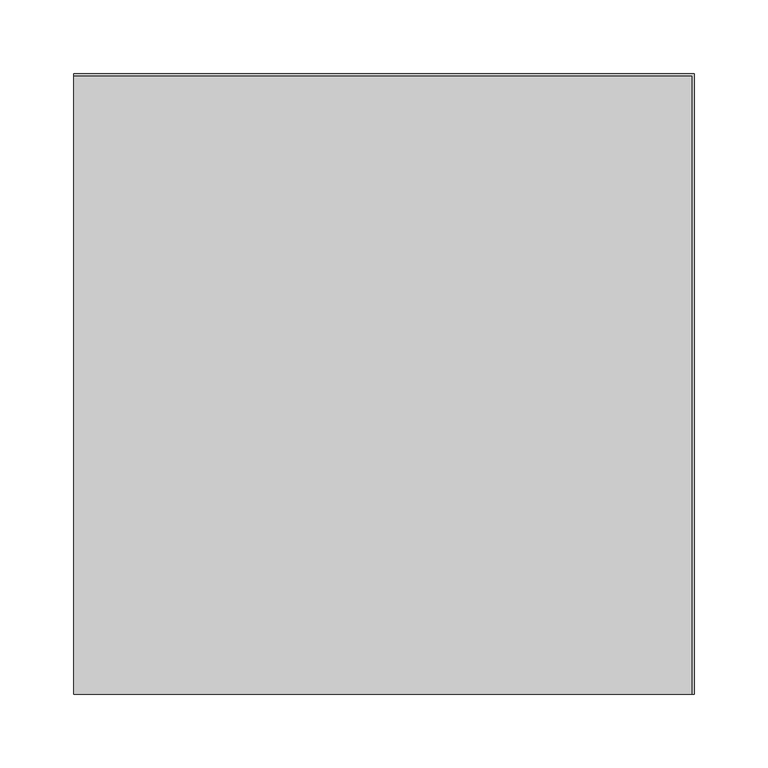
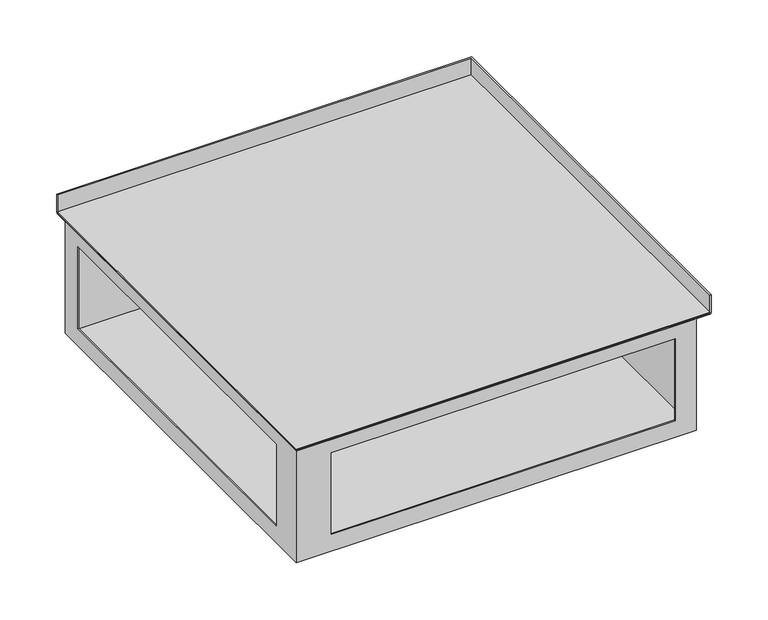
"""IFC4 building model written with IfcOpenShell, lengths in millimetres: proxy geometry, TECHNO_Угловой элемент_KVU : 420_140_90°."""

from ifc_helpers import new_model, si_unit, frame, origin, place, context, project, spatial, polyline, circle_curve, ellipse_curve, outline, extrude, source, transform, mapped, element, save
from ifc_brep_helpers import plane_surface, cylinder_surface, advanced_brep


def mechanical_equipment_2ab1f291(model_context):
    return source(origin(), model_context, "Body", "SolidModel", [
        extrude(outline(polyline([(0.0, 208.8), (418.8, 208.8), (418.8, -210.0), (0.0, -210.0), (0.0, 208.8)])), frame((0.0, 0.0, -19.3), z_axis=(0.0, 0.0, 1.0), x_axis=(1.0, 0.0, 0.0)), (0.0, 0.0, 1.0), 1.2),
        advanced_brep(
        [(1.2, 194.0, -138.8), (1.2, -208.8, -138.8), (404.0, -208.8, -138.8), (404.0, 194.0, -138.8), (0.0, 195.2, -140.0), (405.2, 195.2, -140.0), (405.2, -210.0, -140.0), (0.0, -210.0, -140.0), (0.0, 195.2, -20.5), (0.0, -210.0, -20.5), (0.0, 194.0, -20.5), (0.0, 195.2, -19.3), (0.0, 208.8, -19.3), (0.0, 208.8, 0.0), (0.0, 210.0, 0.0), (0.0, 210.0, -19.3), (0.0, 208.8, -20.5), (0.0, -174.5, -34.3), (0.0, -174.5, -122.0), (0.0, 173.9, -122.0), (0.0, 173.9, -34.3), (405.2, -210.0, -20.5), (418.8, -210.0, -20.5), (420.0, -210.0, -19.3), (420.0, -210.0, 0.0), (418.8, -210.0, 0.0), (418.8, -210.0, -19.3), (405.2, -210.0, -19.3), (404.0, -210.0, -20.5), (35.5, -210.0, -122.0), (35.5, -210.0, -34.3), (383.9, -210.0, -34.3), (383.9, -210.0, -122.0), (405.2, 195.2, -20.5), (1.2, 195.2, -19.3), (1.2, -208.8, -19.3), (405.2, -208.8, -19.3), (418.8, 208.8, -19.3), (405.2, -194.0, -19.3), (16.0, -194.0, -19.3), (16.0, 195.2, -19.3), (405.2, 195.2, -19.3), (16.0, -194.0, -20.5), (16.0, 194.0, -20.5), (404.0, -194.0, -20.5), (404.0, -208.8, -20.5), (1.2, -208.8, -20.5), (1.2, 194.0, -20.5), (1.2, -174.5, -122.0), (1.2, -174.5, -34.3), (1.2, 173.9, -34.3), (1.2, 173.9, -122.0), (35.5, -208.8, -34.3), (35.5, -208.8, -122.0), (383.9, -208.8, -122.0), (383.9, -208.8, -34.3), (420.0, 210.0, -19.3), (420.0, 210.0, 0.0), (418.8, 208.8, 0.0), (418.8, 208.8, -20.5), (404.0, 194.0, -20.5)],
        [
            (0, 1),
            (1, 2),
            (2, 3),
            (3, 0),
            (4, 5),
            (5, 6),
            (6, 7),
            (7, 4),
            (8, 4),
            (7, 9),
            (9, 10),
            (10, 11, circle_curve(frame((0.0, 195.2, -20.5), z_axis=(-1.0, 0.0, 0.0), x_axis=(0.0, -1.0, 0.0)), 1.2)),
            (11, 12),
            (12, 13),
            (13, 14),
            (14, 15),
            (15, 16, circle_curve(frame((0.0, 208.8, -19.3), z_axis=(-1.0, 0.0, 0.0), x_axis=(0.0, -1.0, 0.0)), 1.2)),
            (16, 8),
            (17, 18),
            (18, 19),
            (19, 20),
            (20, 17),
            (6, 21),
            (21, 22),
            (22, 23, circle_curve(frame((418.8, -210.0, -19.3), z_axis=(0.0, -1.0, 0.0), x_axis=(-1.0, 0.0, 0.0)), 1.2)),
            (23, 24),
            (24, 25),
            (25, 26),
            (26, 27),
            (27, 28, circle_curve(frame((405.2, -210.0, -20.5), z_axis=(0.0, -1.0, 0.0), x_axis=(-1.0, 0.0, 0.0)), 1.2)),
            (28, 9),
            (29, 30),
            (30, 31),
            (31, 32),
            (32, 29),
            (8, 33),
            (33, 5),
            (33, 21),
            (34, 35),
            (35, 36),
            (36, 27),
            (26, 37),
            (37, 12),
            (11, 34),
            (38, 39),
            (39, 40),
            (40, 41),
            (41, 38),
            (39, 42),
            (42, 43),
            (43, 40, circle_curve(frame((16.0, 195.2, -20.5), z_axis=(-1.0, 0.0, 0.0), x_axis=(0.0, -1.0, 0.0)), 1.2)),
            (38, 44, circle_curve(frame((405.2, -194.0, -20.5), z_axis=(0.0, -1.0, 0.0), x_axis=(-1.0, 0.0, 0.0)), 1.2)),
            (44, 42),
            (44, 45),
            (45, 46),
            (46, 47),
            (47, 43),
            (46, 1),
            (0, 47),
            (48, 49),
            (49, 50),
            (50, 51),
            (51, 48),
            (45, 2),
            (52, 53),
            (53, 54),
            (54, 55),
            (55, 52),
            (34, 10, ellipse_curve(frame((1.2, 195.2, -20.5), z_axis=(0.7071067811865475, -0.7071067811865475, 0.0), x_axis=(0.7071067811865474, 0.7071067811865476, 0.0)), 1.6970563, 1.2)),
            (9, 35, ellipse_curve(frame((1.2, -208.8, -20.5), z_axis=(-0.7071067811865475, 0.7071067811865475, 0.0), x_axis=(0.7071067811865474, 0.7071067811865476, 0.0)), 1.6970563, 1.2)),
            (28, 36, ellipse_curve(frame((405.2, -208.8, -20.5), z_axis=(-0.7071067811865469, 0.7071067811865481, 0.0), x_axis=(-0.7071067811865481, -0.7071067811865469, 0.0)), 1.6970563, 1.2)),
            (23, 56),
            (56, 57),
            (57, 24),
            (57, 14),
            (13, 58),
            (58, 25),
            (58, 37),
            (16, 59),
            (59, 22),
            (59, 56, ellipse_curve(frame((418.8, 208.8, -19.3), z_axis=(0.7071067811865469, -0.7071067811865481, 0.0), x_axis=(-0.7071067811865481, -0.7071067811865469, 0.0)), 1.6970563, 1.2)),
            (56, 15),
            (41, 60, ellipse_curve(frame((405.2, 195.2, -20.5), z_axis=(0.7071067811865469, -0.7071067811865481, 0.0), x_axis=(-0.7071067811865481, -0.7071067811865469, 0.0)), 1.6970563, 1.2)),
            (60, 44),
            (60, 3),
            (43, 60),
            (48, 18),
            (17, 49),
            (51, 19),
            (50, 20),
            (52, 30),
            (29, 53),
            (55, 31),
            (54, 32),
        ],
        [
            plane_surface(frame((0.0, 194.0, -138.8), z_axis=(0.0, 0.0, 1.0), x_axis=(0.0, -1.0, 0.0))),
            plane_surface(frame((0.0, 194.0, -140.0), z_axis=(0.0, 0.0, -1.0), x_axis=(0.0, 1.0, 0.0))),
            plane_surface(frame((0.0, 194.0, -138.8), z_axis=(-1.0, 0.0, 0.0), x_axis=(0.0, 0.0, -1.0))),
            plane_surface(frame((0.0, -210.0, -138.8), z_axis=(0.0, -1.0, 0.0), x_axis=(0.0, 0.0, -1.0))),
            plane_surface(frame((0.0, 195.2, -140.0), z_axis=(0.0, 1.0, 0.0), x_axis=(0.0, 0.0, -1.0))),
            plane_surface(frame((405.2, -210.0, -140.0), z_axis=(1.0, 0.0, 0.0), x_axis=(0.0, 0.0, -1.0))),
            plane_surface(frame((1.2, 195.2, -19.3), z_axis=(0.0, 0.0, 1.0), x_axis=(0.0, -1.0, 0.0))),
            plane_surface(frame((16.0, 195.2, -19.3), z_axis=(1.0, 0.0, 0.0), x_axis=(0.0, -1.0, 0.0))),
            plane_surface(frame((16.0, -194.0, -19.3), z_axis=(0.0, 1.0, 0.0), x_axis=(1.0, 0.0, 0.0))),
            plane_surface(frame((16.0, 195.2, -20.5), z_axis=(0.0, 0.0, -1.0), x_axis=(0.0, -1.0, 0.0))),
            plane_surface(frame((1.2, 195.2, -20.5), z_axis=(1.0, 0.0, 0.0), x_axis=(0.0, -1.0, 0.0))),
            plane_surface(frame((1.2, -208.8, -20.5), z_axis=(0.0, 1.0, 0.0), x_axis=(1.0, 0.0, 0.0))),
            cylinder_surface(frame((1.2, 195.2, -20.5), z_axis=(0.0, 1.0, 0.0), x_axis=(-1.0, 0.0, 0.0)), 1.2),
            cylinder_surface(frame((0.0, -208.8, -20.5), z_axis=(-1.0, 0.0, 0.0), x_axis=(0.0, -1.0, 0.0)), 1.2),
            plane_surface(frame((420.0, -210.0, -19.3), z_axis=(1.0, 0.0, 0.0), x_axis=(0.0, 1.0, 0.0))),
            plane_surface(frame((420.0, -210.0, 0.0), z_axis=(0.0, 0.0, 1.0), x_axis=(0.0, 1.0, 0.0))),
            plane_surface(frame((418.8, -210.0, 0.0), z_axis=(-1.0, 0.0, 0.0), x_axis=(0.0, 1.0, 0.0))),
            plane_surface(frame((405.2, -210.0, -20.5), z_axis=(0.0, 0.0, -1.0), x_axis=(0.0, 1.0, 0.0))),
            cylinder_surface(frame((418.8, -210.0, -19.3), z_axis=(0.0, -1.0, 0.0), x_axis=(-1.0, 0.0, 0.0)), 1.2),
            plane_surface(frame((420.0, 210.0, -19.3), z_axis=(0.0, 1.0, 0.0), x_axis=(-1.0, 0.0, 0.0))),
            plane_surface(frame((418.8, 208.8, 0.0), z_axis=(0.0, -1.0, 0.0), x_axis=(-1.0, 0.0, 0.0))),
            cylinder_surface(frame((210.0, 208.8, -19.3), z_axis=(1.0, 0.0, 0.0), x_axis=(0.0, -1.0, 0.0)), 1.2),
            cylinder_surface(frame((405.2, -210.0, -20.5), z_axis=(0.0, -1.0, 0.0), x_axis=(-1.0, 0.0, 0.0)), 1.2),
            plane_surface(frame((404.0, -210.0, -20.5), z_axis=(-1.0, 0.0, 0.0), x_axis=(0.0, 1.0, 0.0))),
            cylinder_surface(frame((210.0, 195.2, -20.5), z_axis=(1.0, 0.0, 0.0), x_axis=(0.0, -1.0, 0.0)), 1.2),
            plane_surface(frame((404.0, 194.0, -20.5), z_axis=(0.0, -1.0, 0.0), x_axis=(-1.0, 0.0, 0.0))),
            plane_surface(frame((1.2, -174.5, -34.3), z_axis=(0.0, 1.0, 0.0), x_axis=(-1.0, 0.0, 0.0))),
            plane_surface(frame((1.2, -174.5, -122.0), z_axis=(0.0, 0.0, 1.0), x_axis=(-1.0, 0.0, 0.0))),
            plane_surface(frame((1.2, 173.9, -122.0), z_axis=(0.0, -1.0, 0.0), x_axis=(-1.0, 0.0, 0.0))),
            plane_surface(frame((1.2, 173.9, -34.3), z_axis=(0.0, 0.0, -1.0), x_axis=(-1.0, 0.0, 0.0))),
            plane_surface(frame((35.5, -208.8, -122.0), z_axis=(1.0, 0.0, 0.0), x_axis=(0.0, -1.0, 0.0))),
            plane_surface(frame((35.5, -208.8, -34.3), z_axis=(0.0, 0.0, -1.0), x_axis=(0.0, -1.0, 0.0))),
            plane_surface(frame((383.9, -208.8, -34.3), z_axis=(-1.0, 0.0, 0.0), x_axis=(0.0, -1.0, 0.0))),
            plane_surface(frame((383.9, -208.8, -122.0), z_axis=(0.0, 0.0, 1.0), x_axis=(0.0, -1.0, 0.0))),
        ],
        [
            (0, [[1, 2, 3, 4]]),
            (1, [[5, 6, 7, 8]]),
            (2, [[9, -8, 10, 11, 12, 13, 14, 15, 16, 17, 18], [19, 20, 21, 22]]),
            (3, [[23, 24, 25, 26, 27, 28, 29, 30, 31, -10, -7], [32, 33, 34, 35]]),
            (4, [[-9, 36, 37, -5]]),
            (5, [[-23, -6, -37, 38]]),
            (6, [[39, 40, 41, -29, 42, 43, -13, 44], [45, 46, 47, 48]]),
            (7, [[-46, 49, 50, 51]]),
            (8, [[-45, 52, 53, -49]]),
            (9, [[-50, -53, 54, 55, 56, 57]]),
            (10, [[58, -1, 59, -56], [60, 61, 62, 63]]),
            (11, [[-58, -55, 64, -2], [65, 66, 67, 68]]),
            (12, [[-39, 69, -11, 70]]),
            (13, [[-40, -70, -31, 71]]),
            (14, [[-26, 72, 73, 74]]),
            (15, [[-27, -74, 75, -15, 76, 77]]),
            (16, [[-28, -77, 78, -42]]),
            (17, [[-24, -38, -36, -18, 79, 80]]),
            (18, [[-25, -80, 81, -72]]),
            (19, [[-73, 82, -16, -75]]),
            (20, [[-76, -14, -43, -78]]),
            (21, [[-79, -17, -82, -81]]),
            (22, [[-30, -41, -71]]),
            (22, [[83, 84, -52, -48]]),
            (23, [[85, -3, -64, -54, -84]]),
            (24, [[-12, -69, -44]]),
            (24, [[-83, -47, -51, 86]]),
            (25, [[-85, -86, -57, -59, -4]]),
            (26, [[87, -19, 88, -60]]),
            (27, [[-87, -63, 89, -20]]),
            (28, [[-89, -62, 90, -21]]),
            (29, [[-88, -22, -90, -61]]),
            (30, [[91, -32, 92, -65]]),
            (31, [[-91, -68, 93, -33]]),
            (32, [[-93, -67, 94, -34]]),
            (33, [[-92, -35, -94, -66]]),
        ],
    ),
    ])


if __name__ == "__main__":
    model = new_model("IFC4")
    model_context = context("Model", 3, world=origin())
    ifc_project = project(units=[si_unit("LENGTHUNIT", "METRE", prefix="MILLI")], contexts=[model_context])
    site = spatial("IfcSite", under=ifc_project)
    building = spatial("IfcBuilding", under=site)
    placement = place(None, origin())
    mechanical_equipment_shape = mechanical_equipment_2ab1f291(model_context)
    element("IfcBuildingElementProxy", 1, Name="TECHNO_Угловой элемент_KVU : 420_140_90°", ObjectType="TECHNO_Угловой элемент_KVU : 420_140_90°", at=placement, inside=building, context=model_context, shape_type="MappedRepresentation", body=[
        mapped(mechanical_equipment_shape, transform((0.0, 0.0, 0.0), x_axis=(1.0, 0.0, 0.0), y_axis=(0.0, 1.0, 0.0), z_axis=(0.0, 0.0, 1.0))),
    ])
    save(model, "model.ifc")
